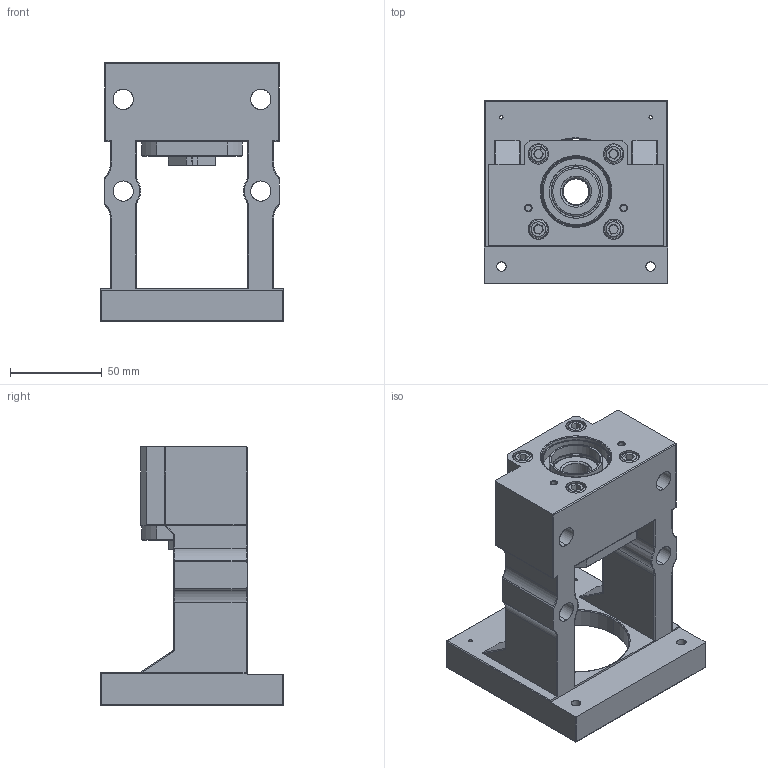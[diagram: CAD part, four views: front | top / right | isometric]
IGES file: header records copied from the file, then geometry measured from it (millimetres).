
Start section: SolidWorks IGES file using analytic representation for surfaces
Global section: file name: C:\Users\117\Desktop\1061208網站3D圖檔問題處理\傳動座\整合型\MBCS(F)\MBCS17\MBCS17-YP.IGS,15HSolidWorks; native system: 2017; preprocessor: SolidWorks 2017; author: 117; date: 171228.155134; units: millimetre
Bounding box: 100 x 100 x 141 mm (x, y, z)
Surface area: 85532.4 mm2 (no closed solid volume)
Topology: 0 solids, 0 shells, 354 faces, 5002 edges, 4970 vertices
Faces by surface type: revolution 206, bspline 148
